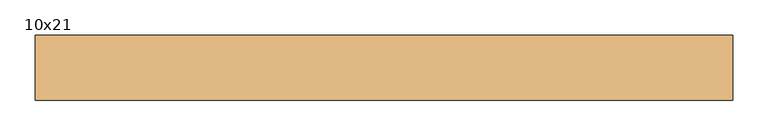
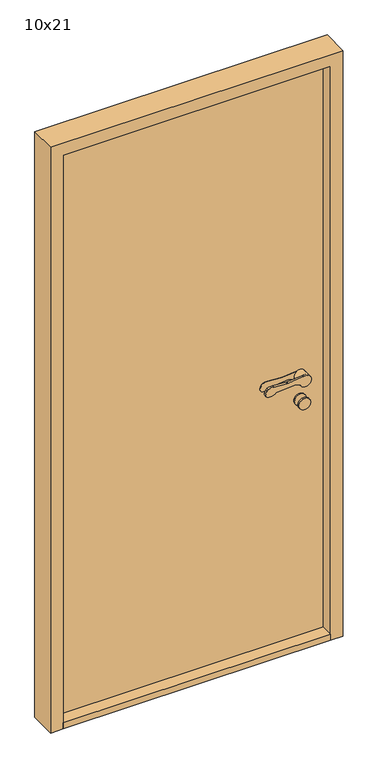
"""IFC4 building model written with IfcOpenShell, lengths in millimetres: door geometry, Innerdør Slett (Diplomat) : 10x21."""

import ifcopenshell
import ifcopenshell.guid

model = None  # the IFC model being written
_history = None  # IfcOwnerHistory: only IFC2X3 demands one
_inside = {}  # id of a spatial element -> (the spatial element, [elements in it])
_under = {}  # id of a project, library or spatial element -> (it, [spatial elements below it])
_declared = {}  # id of a project -> (the project, [libraries it declares])
_typed = {}  # id of a type object -> (the type object, [elements of that type])
_made_of = {}  # id of a material, layer set ... -> (it, [elements and type objects made of it])


def new_model(schema):
    """Start an empty IFC model of exactly this schema.

    Asked for "IFC4X3", IfcOpenShell would pick the latest addendum, in which some entities
    have other attributes; the version numbers below select the first issue.
    IFC2X3 requires an IfcOwnerHistory on every rooted entity: one is made here for all.
    """
    global model, _history
    if schema == "IFC4X3":
        model = ifcopenshell.file(schema_version=(4, 3, 0, 0))
    else:
        model = ifcopenshell.file(schema=schema)
    _inside.clear()
    _under.clear()
    _declared.clear()
    _typed.clear()
    _made_of.clear()
    _history = None
    if model.schema == "IFC2X3":
        org = make("IfcOrganization", Name="unknown")
        user = make(
            "IfcPersonAndOrganization",
            ThePerson=make("IfcPerson", FamilyName="unknown"),
            TheOrganization=org,
        )
        app = make(
            "IfcApplication",
            ApplicationDeveloper=org,
            Version="unknown",
            ApplicationFullName="unknown",
            ApplicationIdentifier="unknown",
        )
        _history = make(
            "IfcOwnerHistory",
            OwningUser=user,
            OwningApplication=app,
            ChangeAction="ADDED",
            CreationDate=0,
        )
    return model


def make(cls, **values):
    """One entity of the class cls with the attributes given. An attribute that is None is left unset."""
    return model.create_entity(
        cls, **{name: value for name, value in values.items() if value is not None}
    )


def rooted(cls, **values):
    """An entity with a GlobalId (a new one), such as an element, a storey or a relation."""
    return make(cls, GlobalId=ifcopenshell.guid.new(), OwnerHistory=_history, **values)


def si_unit(unit_type, name, prefix=None):
    """IfcSIUnit, for example si_unit("LENGTHUNIT", "METRE", prefix="MILLI")."""
    return make("IfcSIUnit", UnitType=unit_type, Prefix=prefix, Name=name)


def assignment(units):
    """IfcUnitAssignment: the units of a project."""
    return None if units is None else make("IfcUnitAssignment", Units=units)


def point(xyz):
    """IfcCartesianPoint."""
    return None if xyz is None else make("IfcCartesianPoint", Coordinates=xyz)


def direction(xyz):
    """IfcDirection."""
    return None if xyz is None else make("IfcDirection", DirectionRatios=xyz)


def frame(location, z_axis=None, x_axis=None):
    """IfcAxis2Placement3D, a coordinate frame: its origin and axes. An axis left out is left unset."""
    return make(
        "IfcAxis2Placement3D",
        Location=point(location),
        Axis=direction(z_axis),
        RefDirection=direction(x_axis),
    )


def frame_2d(location, x_axis=None):
    """IfcAxis2Placement2D, a coordinate frame in the plane: its origin and x axis."""
    return make(
        "IfcAxis2Placement2D", Location=point(location), RefDirection=direction(x_axis)
    )


def origin():
    """The frame at (0, 0, 0) with its axes left unset."""
    return frame((0.0, 0.0, 0.0))


def origin_with_axes():
    """The frame at (0, 0, 0) with the z axis (0, 0, 1) and the x axis (1, 0, 0) written out."""
    return frame((0.0, 0.0, 0.0), z_axis=(0.0, 0.0, 1.0), x_axis=(1.0, 0.0, 0.0))


def place(relative_to, where):
    """IfcLocalPlacement: puts the frame where relative to a parent placement (None: the world)."""
    return make(
        "IfcLocalPlacement", PlacementRelTo=relative_to, RelativePlacement=where
    )


def context(
    kind, dimensions, precision=None, world=None, true_north=None, identifier=None
):
    """IfcGeometricRepresentationContext, for example the 3D "Model" context."""
    return make(
        "IfcGeometricRepresentationContext",
        ContextIdentifier=identifier,
        ContextType=kind,
        CoordinateSpaceDimension=dimensions,
        Precision=precision,
        WorldCoordinateSystem=world,
        TrueNorth=true_north,
    )


def project(units=None, contexts=None):
    """IfcProject with its units and contexts."""
    return rooted(
        "IfcProject",
        Name="project",
        RepresentationContexts=contexts,
        UnitsInContext=assignment(units),
    )


def spatial(cls, under=None, at=None, **own):
    """A site, building, storey or space (cls), placed at a placement, below another one or the project."""
    s = rooted(cls, ObjectPlacement=at, **own)
    if under is not None:
        _under.setdefault(under.id(), (under, []))[1].append(s)
    return s


def polyline(points):
    """IfcPolyline through the points."""
    return make("IfcPolyline", Points=[point(p) for p in points])


def circle_curve(where, radius):
    """IfcCircle in the frame where."""
    return make("IfcCircle", Position=where, Radius=radius)


def trimmed(basis, trim1, trim2, sense, master):
    """IfcTrimmedCurve: the piece of a basis curve between two trims."""
    return make(
        "IfcTrimmedCurve",
        BasisCurve=basis,
        Trim1=trim1,
        Trim2=trim2,
        SenseAgreement=sense,
        MasterRepresentation=master,
    )


def segment(curve, same_sense, transition):
    """IfcCompositeCurveSegment."""
    return make(
        "IfcCompositeCurveSegment",
        Transition=transition,
        SameSense=same_sense,
        ParentCurve=curve,
    )


def composite_curve(segments, self_intersect=None):
    """IfcCompositeCurve: segments joined end to end."""
    return make("IfcCompositeCurve", Segments=segments, SelfIntersect=self_intersect)


def outline(outer, holes=None, kind="AREA"):
    """IfcArbitraryClosedProfileDef: a profile drawn as a closed curve; with holes, ...WithVoids."""
    if holes is None:
        return make("IfcArbitraryClosedProfileDef", ProfileType=kind, OuterCurve=outer)
    return make(
        "IfcArbitraryProfileDefWithVoids",
        ProfileType=kind,
        OuterCurve=outer,
        InnerCurves=holes,
    )


def extrude(swept, where, along, depth):
    """IfcExtrudedAreaSolid: the profile swept, set in the frame where, extruded along a direction by depth."""
    return make(
        "IfcExtrudedAreaSolid",
        SweptArea=swept,
        Position=where,
        ExtrudedDirection=direction(along),
        Depth=depth,
    )


def shape(context_of_items, identifier, shape_type, items):
    """IfcShapeRepresentation: the items that make up one representation, for example the "Body"."""
    return make(
        "IfcShapeRepresentation",
        ContextOfItems=context_of_items,
        RepresentationIdentifier=identifier,
        RepresentationType=shape_type,
        Items=items,
    )


def source(mapping_origin, context_of_items, identifier, shape_type, items):
    """IfcRepresentationMap: a shape defined once, which mapped items show again and again."""
    return make(
        "IfcRepresentationMap",
        MappingOrigin=mapping_origin,
        MappedRepresentation=shape(context_of_items, identifier, shape_type, items),
    )


def transform(
    local_origin,
    x_axis=None,
    y_axis=None,
    z_axis=None,
    scale=None,
    scale2=None,
    scale3=None,
    uniform=True,
):
    """IfcCartesianTransformationOperator3D, or its non-uniform kind. x_axis, y_axis, z_axis: its Axis1, 2, 3."""
    if uniform:
        return make(
            "IfcCartesianTransformationOperator3D",
            Axis1=direction(x_axis),
            Axis2=direction(y_axis),
            LocalOrigin=point(local_origin),
            Scale=scale,
            Axis3=direction(z_axis),
        )
    return make(
        "IfcCartesianTransformationOperator3DnonUniform",
        Axis1=direction(x_axis),
        Axis2=direction(y_axis),
        LocalOrigin=point(local_origin),
        Scale=scale,
        Axis3=direction(z_axis),
        Scale2=scale2,
        Scale3=scale3,
    )


def mapped(mapping_source, mapping_target):
    """IfcMappedItem: shows the shape of a source again, moved by a transform."""
    return make(
        "IfcMappedItem", MappingSource=mapping_source, MappingTarget=mapping_target
    )


def made_of(thing, what):
    """Note that an element or type object is made of a material, layer set ...; save() writes the relation."""
    if what is not None:
        _made_of.setdefault(what.id(), (what, []))[1].append(thing)
    return thing


def element(
    cls,
    number,
    at=None,
    inside=None,
    cuts=None,
    type_object=None,
    material=None,
    context=None,
    identifier="Body",
    shape_type=None,
    held_by="IfcProductDefinitionShape",
    body=None,
    shapes=None,
    **own,
):
    """One element of the class cls, such as IfcWall. Its Tag is "e" and its number.

    at: its placement. inside: the storey or other place that contains it. cuts: it is an
    opening in that element (IfcRelVoidsElement). A single representation is given by context,
    identifier, shape_type and body (its items); several are given by shapes. held_by: the class
    of the entity that holds the representations. save() writes the other relations.
    """
    e = rooted(cls, Tag="e%d" % number, ObjectPlacement=at, **own)
    if body is not None:
        shapes = [shape(context, identifier, shape_type, body)]
    if shapes is not None:
        e.Representation = make(held_by, Representations=shapes)
    if inside is not None:
        _inside.setdefault(inside.id(), (inside, []))[1].append(e)
    if cuts is not None:
        rooted(
            "IfcRelVoidsElement", RelatingBuildingElement=cuts, RelatedOpeningElement=e
        )
    if type_object is not None:
        _typed.setdefault(type_object.id(), (type_object, []))[1].append(e)
    return made_of(e, material)


def aggregate(whole, parts):
    """IfcRelAggregates: a whole, such as a stair, and the parts it consists of."""
    return rooted("IfcRelAggregates", RelatingObject=whole, RelatedObjects=parts)


def save(model, path):
    """Write the relations noted so far, then the file.

    IfcRelAggregates (storeys below a building ...), IfcRelContainedInSpatialStructure (elements
    in a storey), IfcRelDefinesByType, IfcRelAssociatesMaterial and IfcRelDeclares: one each for
    every whole, place, type object, material and project.
    """
    for whole, parts in _under.values():
        aggregate(whole, parts)
    for where, things in _inside.values():
        rooted(
            "IfcRelContainedInSpatialStructure",
            RelatedElements=things,
            RelatingStructure=where,
        )
    for kind, things in _typed.values():
        rooted("IfcRelDefinesByType", RelatedObjects=things, RelatingType=kind)
    for what, things in _made_of.values():
        rooted("IfcRelAssociatesMaterial", RelatedObjects=things, RelatingMaterial=what)
    for by, libraries in _declared.values():
        rooted("IfcRelDeclares", RelatingContext=by, RelatedDefinitions=libraries)
    model.write(path)


def plane_surface(at):
    """IfcPlane: the flat surface through the origin of the frame at, square to its z axis."""
    return make("IfcPlane", Position=at)


def cylinder_surface(at, radius):
    """IfcCylindricalSurface: all points at the distance radius from the z axis of the frame at."""
    return make("IfcCylindricalSurface", Position=at, Radius=radius)


def revolved_surface(curve, axis_point, axis_direction):
    """IfcSurfaceOfRevolution: the curve turned about the line through axis_point along axis_direction."""
    return make(
        "IfcSurfaceOfRevolution",
        SweptCurve=make("IfcArbitraryOpenProfileDef", ProfileType="CURVE", Curve=curve),
        AxisPosition=make("IfcAxis1Placement", Location=point(axis_point), Axis=direction(axis_direction)),
    )


def advanced_brep(points, edges, surfaces, faces):
    """IfcAdvancedBrep: a solid bounded by faces that lie on surfaces and meet in shared edges.

    An edge is (start, end): straight between two places in points (the first is 0);
    or (start, end, curve); or (start, end, curve, False) where it runs against its curve.
    A face is (place in surfaces, loops), or (place, loops, False) where it looks against
    its surface's normal. A loop lists edges by number (the first is 1), with a minus sign
    where the edge is run from its end to its start. The first loop is the outer one.
    """
    corners = [point(p) for p in points]
    vertices = [make("IfcVertexPoint", VertexGeometry=c) for c in corners]
    made = []
    for start, end, *more in edges:
        made.append(
            make(
                "IfcEdgeCurve",
                EdgeStart=vertices[start],
                EdgeEnd=vertices[end],
                EdgeGeometry=more[0] if more else make("IfcPolyline", Points=[corners[start], corners[end]]),
                SameSense=more[1] if len(more) > 1 else True,
            )
        )
    hull = []
    for where, loops, *sense in faces:
        bounds = []
        for j, loop in enumerate(loops):
            ring = [make("IfcOrientedEdge", EdgeElement=made[abs(k) - 1], Orientation=k > 0) for k in loop]
            bounds.append(
                make(
                    "IfcFaceOuterBound" if j == 0 else "IfcFaceBound",
                    Bound=make("IfcEdgeLoop", EdgeList=ring),
                    Orientation=True,
                )
            )
        hull.append(make("IfcAdvancedFace", Bounds=bounds, FaceSurface=surfaces[where], SameSense=sense[0] if sense else True))
    return make("IfcAdvancedBrep", Outer=make("IfcClosedShell", CfsFaces=hull))


def door_10x21_b8c01cd5(model_context):
    return source(origin(), model_context, "Body", "SolidModel", [
        advanced_brep(
        [(393.9611305, 60.0, 949.1175955), (408.3841161, 60.0, 942.6204086), (446.379633, 60.0, 951.3474568), (417.2687793, 60.0, 969.1517356), (368.6891233, 60.0, 964.26032), (363.6202158, 60.0, 964.1804415), (318.8963175, 60.0, 967.2639242), (300.3175669, 60.0, 964.8810513), (295.505009, 60.0, 959.9624074), (291.8691983, 60.0, 951.8913379), (296.721536, 60.0, 938.7393398), (326.0476109, 60.0, 943.6260011), (388.8520664, 60.0, 949.9496913), (368.6891233, 67.1084716, 964.26032), (417.2687793, 67.1084716, 969.1517356), (406.379633, 67.1084716, 951.3474568), (408.3841161, 67.1084716, 942.6204086), (393.9611305, 67.1084716, 949.1175955), (388.8520664, 67.1084716, 949.9496913), (326.0476109, 67.1084716, 943.6260011), (296.721536, 67.1084716, 938.7393398), (291.8691983, 67.1084716, 951.8913379), (295.505009, 67.1084716, 959.9624074), (300.3175669, 67.1084716, 964.8810513), (318.8963175, 67.1084716, 967.2639242), (363.6202158, 67.1084716, 964.1804415), (446.379633, 95.0, 951.3474568), (406.379633, 95.0, 951.3474568)],
        [
            (0, 1),
            (1, 2, circle_curve(frame((426.379633, 60.0, 951.3474568), z_axis=(0.0, -1.0, 0.0), x_axis=(-1.0, 0.0, 0.0)), 20.0)),
            (2, 3, circle_curve(frame((426.379633, 60.0, 951.3474568), z_axis=(0.0, -1.0, 0.0), x_axis=(-1.0, 0.0, 0.0)), 20.0)),
            (3, 4),
            (4, 5, circle_curve(frame((365.683663, 60.0, 994.1093938), z_axis=(0.0, 1.0, 0.0), x_axis=(-0.9949691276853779, 0.0, -0.10018200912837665)), 30.0)),
            (5, 6),
            (6, 7, circle_curve(frame((313.2326797, 60.0, 937.8033877), z_axis=(0.0, -1.0, 0.0), x_axis=(-0.9949691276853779, 0.0, -0.10018200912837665)), 30.0)),
            (7, 8, circle_curve(frame((304.6226045, 60.0, 955.8551634), z_axis=(0.0, -1.0, 0.0), x_axis=(-0.9949691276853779, 0.0, -0.10018200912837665)), 10.0)),
            (8, 9),
            (9, 10, circle_curve(frame((300.9867937, 60.0, 947.7840939), z_axis=(0.0, -1.0, 0.0), x_axis=(-0.9949691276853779, 0.0, -0.10018200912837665)), 10.0)),
            (10, 11, circle_curve(frame((307.8569644, 60.0, 962.352734), z_axis=(0.0, -1.0, 0.0), x_axis=(-0.9949691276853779, 0.0, -0.10018200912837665)), 26.1072815)),
            (11, 12),
            (12, 0, circle_curve(frame((389.8538865, 60.0, 940.0), z_axis=(0.0, 1.0, 0.0), x_axis=(-0.9949691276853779, 0.0, -0.10018200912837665)), 10.0)),
            (13, 14),
            (14, 15, circle_curve(frame((426.379633, 67.1084716, 951.3474568), z_axis=(0.0, -1.0, 0.0), x_axis=(-1.0, 0.0, 0.0)), 20.0)),
            (15, 16, circle_curve(frame((426.379633, 67.1084716, 951.3474568), z_axis=(0.0, -1.0, 0.0), x_axis=(-1.0, 0.0, 0.0)), 20.0)),
            (16, 17),
            (17, 18, circle_curve(frame((389.8538865, 67.1084716, 940.0), z_axis=(0.0, -1.0, 0.0), x_axis=(-0.9949691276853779, 0.0, -0.10018200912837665)), 10.0)),
            (18, 19),
            (19, 20, circle_curve(frame((307.8569644, 67.1084716, 962.352734), z_axis=(0.0, 1.0, 0.0), x_axis=(-0.9949691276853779, 0.0, -0.10018200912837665)), 26.1072815)),
            (20, 21, circle_curve(frame((300.9867937, 67.1084716, 947.7840939), z_axis=(0.0, 1.0, 0.0), x_axis=(-0.9949691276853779, 0.0, -0.10018200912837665)), 10.0)),
            (21, 22),
            (22, 23, circle_curve(frame((304.6226045, 67.1084716, 955.8551634), z_axis=(0.0, 1.0, 0.0), x_axis=(-0.9949691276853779, 0.0, -0.10018200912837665)), 10.0)),
            (23, 24, circle_curve(frame((313.2326797, 67.1084716, 937.8033877), z_axis=(0.0, 1.0, 0.0), x_axis=(-0.9949691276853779, 0.0, -0.10018200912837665)), 30.0)),
            (24, 25),
            (25, 13, circle_curve(frame((365.683663, 67.1084716, 994.1093938), z_axis=(0.0, -1.0, 0.0), x_axis=(-0.9949691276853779, 0.0, -0.10018200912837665)), 30.0)),
            (3, 14),
            (13, 4),
            (16, 1),
            (0, 17),
            (12, 18),
            (11, 19),
            (10, 20),
            (9, 21),
            (8, 22),
            (7, 23),
            (6, 24),
            (5, 25),
            (26, 27, circle_curve(frame((426.379633, 95.0, 951.3474568), z_axis=(0.0, 1.0, 0.0), x_axis=(-1.0, 0.0, 0.0)), 20.0)),
            (27, 26, circle_curve(frame((426.379633, 95.0, 951.3474568), z_axis=(0.0, 1.0, 0.0), x_axis=(-1.0, 0.0, 0.0)), 20.0)),
            (26, 2),
            (15, 27),
        ],
        [
            plane_surface(frame((417.6960588, 60.0, 969.1947577), z_axis=(0.0, -1.0000000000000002, 0.0), x_axis=(0.9949691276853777, 0.0, 0.10018200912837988))),
            plane_surface(frame((417.6960588, 67.1084716, 969.1947577), z_axis=(0.0, 1.0000000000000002, 0.0), x_axis=(-0.9949691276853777, 0.0, -0.10018200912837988))),
            plane_surface(frame((368.6891233, 60.0, 964.26032), z_axis=(-0.10018200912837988, 0.0, 0.9949691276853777), x_axis=(0.0, 1.0, 0.0))),
            plane_surface(frame((426.9687366, 60.0, 934.2485115), z_axis=(-0.41072439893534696, 0.0, -0.91175954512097), x_axis=(0.0, 1.0, 0.0))),
            revolved_surface(polyline([(379.9041952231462, 67.1084716, 938.9981799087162), (379.9041952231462, 60.0, 938.9981799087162)]), (389.8538865, 67.1084716, 940.0), (0.0, 1.0, 0.0)),
            plane_surface(frame((388.8520664, 60.0, 949.9496913), z_axis=(0.10018200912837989, 0.0, -0.9949691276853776), x_axis=(0.0, 1.0, 0.0))),
            cylinder_surface(frame((307.8569644, 67.1084716, 962.352734), z_axis=(0.0, -1.0, 0.0), x_axis=(-0.9949691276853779, 0.0, -0.10018200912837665)), 26.1072815),
            cylinder_surface(frame((300.9867937, 67.1084716, 947.7840939), z_axis=(0.0, -1.0, 0.0), x_axis=(-0.9949691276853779, 0.0, -0.10018200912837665)), 10.0),
            plane_surface(frame((291.8691983, 60.0, 951.8913379), z_axis=(-0.9117595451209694, 0.0, 0.41072439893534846), x_axis=(0.0, 1.0, 0.0))),
            cylinder_surface(frame((304.6226045, 67.1084716, 955.8551634), z_axis=(0.0, -1.0, 0.0), x_axis=(-0.9949691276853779, 0.0, -0.10018200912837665)), 10.0),
            cylinder_surface(frame((313.2326797, 67.1084716, 937.8033877), z_axis=(0.0, -1.0, 0.0), x_axis=(-0.9949691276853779, 0.0, -0.10018200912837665)), 30.0),
            plane_surface(frame((318.8963175, 60.0, 967.2639242), z_axis=(0.06878157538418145, 0.0, 0.9976317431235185), x_axis=(0.0, 1.0, 0.0))),
            revolved_surface(polyline([(335.8345891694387, 67.1084716, 991.1039335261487), (335.8345891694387, 60.0, 991.1039335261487)]), (365.683663, 67.1084716, 994.1093938), (0.0, 1.0, 0.0)),
            plane_surface(frame((406.379633, 95.0, 951.3474568), z_axis=(0.0, 1.0, 0.0), x_axis=(0.0, 0.0, -1.0))),
            cylinder_surface(frame((426.379633, 95.0, 951.3474568), z_axis=(0.0, -1.0, 0.0), x_axis=(-1.0, 0.0, 0.0)), 20.0),
        ],
        [
            (0, [[1, 2, 3, 4, 5, 6, 7, 8, 9, 10, 11, 12, 13]]),
            (1, [[14, 15, 16, 17, 18, 19, 20, 21, 22, 23, 24, 25, 26]]),
            (2, [[-4, 27, -14, 28]]),
            (3, [[-17, 29, -1, 30]]),
            (4, [[31, -18, -30, -13]]),
            (5, [[32, -19, -31, -12]]),
            (6, [[33, -20, -32, -11]]),
            (7, [[34, -21, -33, -10]]),
            (8, [[35, -22, -34, -9]]),
            (9, [[36, -23, -35, -8]]),
            (10, [[37, -24, -36, -7]]),
            (11, [[38, -25, -37, -6]]),
            (12, [[-28, -26, -38, -5]]),
            (13, [[39, 40]]),
            (14, [[41, -2, -29, -16, 42, -39]]),
            (14, [[-42, -15, -27, -3, -41, -40]]),
        ],
    ),
        extrude(outline(composite_curve([segment(trimmed(circle_curve(frame_2d((866.3474568, 426.379633)), 20.0), [point((866.3474568, 446.379633))], [point((866.3474568, 406.379633))], False, "CARTESIAN"), True, "CONTINUOUS"), segment(trimmed(circle_curve(frame_2d((866.3474568, 426.379633)), 20.0), [point((866.3474568, 406.379633))], [point((866.3474568, 446.379633))], False, "CARTESIAN"), True, "CONTINUOUS")], self_intersect=False)), frame((0.0, 90.0, 0.0), z_axis=(0.0, 1.0, 0.0), x_axis=(0.0, 0.0, 1.0)), (0.0, 0.0, 1.0), 5.0),
        advanced_brep(
        [(393.9611305, 100.0, 949.1175955), (388.8520664, 100.0, 949.9496913), (326.0476109, 100.0, 943.6260011), (296.721536, 100.0, 938.7393398), (291.8691983, 100.0, 951.8913379), (295.505009, 100.0, 959.9624074), (300.3175669, 100.0, 964.8810513), (318.8963175, 100.0, 967.2639242), (363.6202158, 100.0, 964.1804415), (368.6891233, 100.0, 964.26032), (417.2687793, 100.0, 969.1517356), (446.379633, 100.0, 951.3474568), (408.3841161, 100.0, 942.6204086), (368.6891233, 92.8915284, 964.26032), (363.6202158, 92.8915284, 964.1804415), (318.8963175, 92.8915284, 967.2639242), (300.3175669, 92.8915284, 964.8810513), (295.505009, 92.8915284, 959.9624074), (291.8691983, 92.8915284, 951.8913379), (296.721536, 92.8915284, 938.7393398), (326.0476109, 92.8915284, 943.6260011), (388.8520664, 92.8915284, 949.9496913), (393.9611305, 92.8915284, 949.1175955), (408.3841161, 92.8915284, 942.6204086), (406.379633, 92.8915284, 951.3474568), (417.2687793, 92.8915284, 969.1517356), (446.379633, 65.0, 951.3474568), (406.379633, 65.0, 951.3474568)],
        [
            (0, 1, circle_curve(frame((389.8538865, 100.0, 940.0), z_axis=(0.0, -1.0, 0.0), x_axis=(-0.9949691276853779, 0.0, -0.10018200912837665)), 10.0)),
            (1, 2),
            (2, 3, circle_curve(frame((307.8569644, 100.0, 962.352734), z_axis=(0.0, 1.0, 0.0), x_axis=(-0.9949691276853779, 0.0, -0.10018200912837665)), 26.1072815)),
            (3, 4, circle_curve(frame((300.9867937, 100.0, 947.7840939), z_axis=(0.0, 1.0, 0.0), x_axis=(-0.9949691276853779, 0.0, -0.10018200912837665)), 10.0)),
            (4, 5),
            (5, 6, circle_curve(frame((304.6226045, 100.0, 955.8551634), z_axis=(0.0, 1.0, 0.0), x_axis=(-0.9949691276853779, 0.0, -0.10018200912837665)), 10.0)),
            (6, 7, circle_curve(frame((313.2326797, 100.0, 937.8033877), z_axis=(0.0, 1.0, 0.0), x_axis=(-0.9949691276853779, 0.0, -0.10018200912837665)), 30.0)),
            (7, 8),
            (8, 9, circle_curve(frame((365.683663, 100.0, 994.1093938), z_axis=(0.0, -1.0, 0.0), x_axis=(-0.9949691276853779, 0.0, -0.10018200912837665)), 30.0)),
            (9, 10),
            (10, 11, circle_curve(frame((426.379633, 100.0, 951.3474568), z_axis=(0.0, 1.0, 0.0), x_axis=(-1.0, 0.0, 0.0)), 20.0)),
            (11, 12, circle_curve(frame((426.379633, 100.0, 951.3474568), z_axis=(0.0, 1.0, 0.0), x_axis=(-1.0, 0.0, 0.0)), 20.0)),
            (12, 0),
            (13, 14, circle_curve(frame((365.683663, 92.8915284, 994.1093938), z_axis=(0.0, 1.0, 0.0), x_axis=(-0.9949691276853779, 0.0, -0.10018200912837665)), 30.0)),
            (14, 15),
            (15, 16, circle_curve(frame((313.2326797, 92.8915284, 937.8033877), z_axis=(0.0, -1.0, 0.0), x_axis=(-0.9949691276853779, 0.0, -0.10018200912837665)), 30.0)),
            (16, 17, circle_curve(frame((304.6226045, 92.8915284, 955.8551634), z_axis=(0.0, -1.0, 0.0), x_axis=(-0.9949691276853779, 0.0, -0.10018200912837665)), 10.0)),
            (17, 18),
            (18, 19, circle_curve(frame((300.9867937, 92.8915284, 947.7840939), z_axis=(0.0, -1.0, 0.0), x_axis=(-0.9949691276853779, 0.0, -0.10018200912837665)), 10.0)),
            (19, 20, circle_curve(frame((307.8569644, 92.8915284, 962.352734), z_axis=(0.0, -1.0, 0.0), x_axis=(-0.9949691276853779, 0.0, -0.10018200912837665)), 26.1072815)),
            (20, 21),
            (21, 22, circle_curve(frame((389.8538865, 92.8915284, 940.0), z_axis=(0.0, 1.0, 0.0), x_axis=(-0.9949691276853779, 0.0, -0.10018200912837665)), 10.0)),
            (22, 23),
            (23, 24, circle_curve(frame((426.379633, 92.8915284, 951.3474568), z_axis=(0.0, 1.0, 0.0), x_axis=(-1.0, 0.0, 0.0)), 20.0)),
            (24, 25, circle_curve(frame((426.379633, 92.8915284, 951.3474568), z_axis=(0.0, 1.0, 0.0), x_axis=(-1.0, 0.0, 0.0)), 20.0)),
            (25, 13),
            (9, 13),
            (25, 10),
            (22, 0),
            (12, 23),
            (21, 1),
            (20, 2),
            (19, 3),
            (18, 4),
            (17, 5),
            (16, 6),
            (15, 7),
            (14, 8),
            (26, 27, circle_curve(frame((426.379633, 65.0, 951.3474568), z_axis=(0.0, -1.0, 0.0), x_axis=(-1.0, 0.0, 0.0)), 20.0)),
            (27, 26, circle_curve(frame((426.379633, 65.0, 951.3474568), z_axis=(0.0, -1.0, 0.0), x_axis=(-1.0, 0.0, 0.0)), 20.0)),
            (27, 24),
            (11, 26),
        ],
        [
            plane_surface(frame((417.6960588, 100.0, 969.1947577), z_axis=(0.0, 1.0000000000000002, 0.0), x_axis=(0.9949691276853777, 0.0, 0.10018200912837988))),
            plane_surface(frame((417.6960588, 92.8915284, 969.1947577), z_axis=(0.0, -1.0000000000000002, 0.0), x_axis=(-0.9949691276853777, 0.0, -0.10018200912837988))),
            plane_surface(frame((368.6891233, 100.0, 964.26032), z_axis=(-0.10018200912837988, 0.0, 0.9949691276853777), x_axis=(0.0, -1.0, 0.0))),
            plane_surface(frame((426.9687366, 100.0, 934.2485115), z_axis=(-0.41072439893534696, 0.0, -0.91175954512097), x_axis=(0.0, -1.0, 0.0))),
            revolved_surface(polyline([(379.9041952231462, 92.8915284, 938.9981799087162), (379.9041952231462, 100.0, 938.9981799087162)]), (389.8538865, 92.8915284, 940.0), (0.0, -1.0, 0.0)),
            plane_surface(frame((388.8520664, 100.0, 949.9496913), z_axis=(0.10018200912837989, 0.0, -0.9949691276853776), x_axis=(0.0, -1.0, 0.0))),
            cylinder_surface(frame((307.8569644, 92.8915284, 962.352734), z_axis=(0.0, 1.0, 0.0), x_axis=(-0.9949691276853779, 0.0, -0.10018200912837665)), 26.1072815),
            cylinder_surface(frame((300.9867937, 92.8915284, 947.7840939), z_axis=(0.0, 1.0, 0.0), x_axis=(-0.9949691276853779, 0.0, -0.10018200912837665)), 10.0),
            plane_surface(frame((291.8691983, 100.0, 951.8913379), z_axis=(-0.9117595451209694, 0.0, 0.41072439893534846), x_axis=(0.0, -1.0, 0.0))),
            cylinder_surface(frame((304.6226045, 92.8915284, 955.8551634), z_axis=(0.0, 1.0, 0.0), x_axis=(-0.9949691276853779, 0.0, -0.10018200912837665)), 10.0),
            cylinder_surface(frame((313.2326797, 92.8915284, 937.8033877), z_axis=(0.0, 1.0, 0.0), x_axis=(-0.9949691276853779, 0.0, -0.10018200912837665)), 30.0),
            plane_surface(frame((318.8963175, 100.0, 967.2639242), z_axis=(0.06878157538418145, 0.0, 0.9976317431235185), x_axis=(0.0, -1.0, 0.0))),
            revolved_surface(polyline([(335.8345891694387, 92.8915284, 991.1039335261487), (335.8345891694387, 100.0, 991.1039335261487)]), (365.683663, 92.8915284, 994.1093938), (0.0, -1.0, 0.0)),
            plane_surface(frame((406.379633, 65.0, 951.3474568), z_axis=(0.0, -1.0, 0.0), x_axis=(0.0, 0.0, -1.0))),
            cylinder_surface(frame((426.379633, 65.0, 951.3474568), z_axis=(0.0, 1.0, 0.0), x_axis=(-1.0, 0.0, 0.0)), 20.0),
        ],
        [
            (0, [[1, 2, 3, 4, 5, 6, 7, 8, 9, 10, 11, 12, 13]]),
            (1, [[14, 15, 16, 17, 18, 19, 20, 21, 22, 23, 24, 25, 26]]),
            (2, [[27, -26, 28, -10]]),
            (3, [[29, -13, 30, -23]]),
            (4, [[-1, -29, -22, 31]]),
            (5, [[-2, -31, -21, 32]]),
            (6, [[-3, -32, -20, 33]]),
            (7, [[-4, -33, -19, 34]]),
            (8, [[-5, -34, -18, 35]]),
            (9, [[-6, -35, -17, 36]]),
            (10, [[-7, -36, -16, 37]]),
            (11, [[-8, -37, -15, 38]]),
            (12, [[-9, -38, -14, -27]]),
            (13, [[39, 40]]),
            (14, [[-40, 41, -24, -30, -12, 42]]),
            (14, [[-39, -42, -11, -28, -25, -41]]),
        ],
    ),
        extrude(outline(composite_curve([segment(trimmed(circle_curve(frame_2d((866.3474568, 426.379633)), 20.0), [point((866.3474568, 446.379633))], [point((866.3474568, 406.379633))], False, "CARTESIAN"), True, "CONTINUOUS"), segment(trimmed(circle_curve(frame_2d((866.3474568, 426.379633)), 20.0), [point((866.3474568, 406.379633))], [point((866.3474568, 446.379633))], False, "CARTESIAN"), True, "CONTINUOUS")], self_intersect=False)), frame((0.0, 65.0, 0.0), z_axis=(0.0, 1.0, 0.0), x_axis=(0.0, 0.0, 1.0)), (0.0, 0.0, 1.0), 5.0),
        extrude(outline(polyline([(506.379633, 53.0), (-399.620367, 53.0), (-399.620367, 145.0), (506.379633, 145.0), (506.379633, 53.0)])), origin_with_axes(), (0.0, 0.0, 1.0), 22.0),
        extrude(outline(polyline([(506.379633, 95.0), (-399.620367, 95.0), (-399.620367, 145.0), (506.379633, 145.0), (506.379633, 95.0)])), frame((0.0, 0.0, 22.0), z_axis=(0.0, 0.0, 1.0), x_axis=(1.0, 0.0, 0.0)), (0.0, 0.0, 1.0), 2031.0),
        extrude(outline(polyline([(0.0, -441.620367), (0.0, -399.620367), (2053.0, -399.620367), (2053.0, 506.379633), (0.0, 506.379633), (0.0, 548.379633), (2095.0, 548.379633), (2095.0, -441.620367), (0.0, -441.620367)])), frame((0.0, 53.0, 0.0), z_axis=(0.0, 1.0, 0.0), x_axis=(0.0, 0.0, 1.0)), (0.0, 0.0, 1.0), 92.0),
    ])


if __name__ == "__main__":
    model = new_model("IFC4")
    model_context = context("Model", 3, world=origin())
    ifc_project = project(units=[si_unit("LENGTHUNIT", "METRE", prefix="MILLI")], contexts=[model_context])
    site = spatial("IfcSite", under=ifc_project)
    building = spatial("IfcBuilding", under=site)
    placement = place(None, origin())
    door_10x21_shape = door_10x21_b8c01cd5(model_context)
    element("IfcDoor", 1, ObjectType="Innerdør Slett (Diplomat) : 10x21", at=placement, inside=building, context=model_context, shape_type="MappedRepresentation", body=[
        mapped(door_10x21_shape, transform((0.0, 0.0, 0.0), x_axis=(1.0, 0.0, 0.0), y_axis=(0.0, 1.0, 0.0), z_axis=(0.0, 0.0, 1.0))),
    ])
    save(model, "model.ifc")
